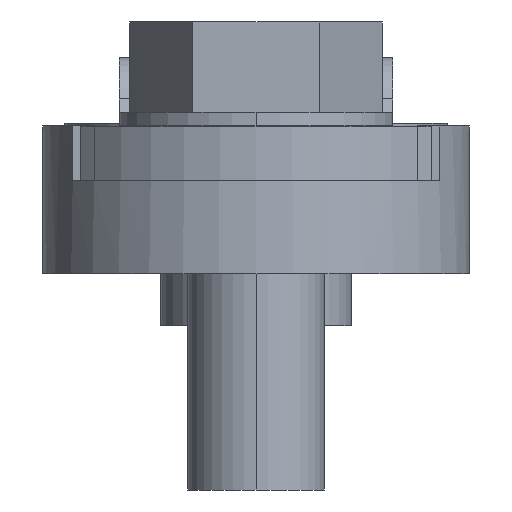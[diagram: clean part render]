
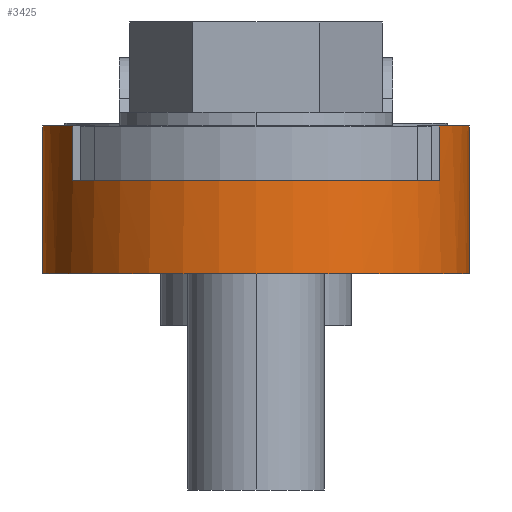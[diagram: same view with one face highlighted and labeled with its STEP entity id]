
A CAD part, front view. The second image highlights one B-rep face of the part: STEP entity #3425.
In plain terms, the highlighted cylindrical face has radius 7.8 mm (diameter 15.6 mm), a partial arc.
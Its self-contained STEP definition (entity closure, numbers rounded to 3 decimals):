
#52 = DIRECTION ( 'NONE',  ( 0., 0., -1. ) ) ;
#69 = CARTESIAN_POINT ( 'NONE',  ( 0., 0., 5.4 ) ) ;
#108 = VERTEX_POINT ( 'NONE', #354 ) ;
#354 = CARTESIAN_POINT ( 'NONE',  ( -7.8, 0., 5.4 ) ) ;
#363 = CYLINDRICAL_SURFACE ( 'NONE', #7017, 7.8 ) ;
#364 = DIRECTION ( 'NONE',  ( -1., 0., 0. ) ) ;
#891 = EDGE_CURVE ( 'NONE', #4449, #10571, #6610, .T. ) ;
#1611 = VECTOR ( 'NONE', #5868, 1000. ) ;
#1727 = CIRCLE ( 'NONE', #4421, 7.8 ) ;
#2285 = CARTESIAN_POINT ( 'NONE',  ( 0., 0., 3.4 ) ) ;
#2372 = ORIENTED_EDGE ( 'NONE', *, *, #9881, .T. ) ;
#2550 = ORIENTED_EDGE ( 'NONE', *, *, #7182, .F. ) ;
#2825 = DIRECTION ( 'NONE',  ( 0., 0., 1. ) ) ;
#2861 = AXIS2_PLACEMENT_3D ( 'NONE', #2285, #11218, #7761 ) ;
#2985 = EDGE_CURVE ( 'NONE', #108, #4449, #4959, .T. ) ;
#2988 = CIRCLE ( 'NONE', #5294, 7.8 ) ;
#3017 = CARTESIAN_POINT ( 'NONE',  ( -7.8, 0., 0. ) ) ;
#3070 = VERTEX_POINT ( 'NONE', #6157 ) ;
#3425 = ADVANCED_FACE ( 'NONE', ( #4884 ), #363, .T. ) ;
#3572 = VERTEX_POINT ( 'NONE', #11463 ) ;
#3741 = VERTEX_POINT ( 'NONE', #8225 ) ;
#3842 = CIRCLE ( 'NONE', #2861, 7.8 ) ;
#3871 = ORIENTED_EDGE ( 'NONE', *, *, #4164, .F. ) ;
#3936 = DIRECTION ( 'NONE',  ( 0., 0., 1. ) ) ;
#3993 = DIRECTION ( 'NONE',  ( 0., 0., -1. ) ) ;
#4122 = DIRECTION ( 'NONE',  ( 1., 0., 0. ) ) ;
#4164 = EDGE_CURVE ( 'NONE', #9325, #3741, #2988, .T. ) ;
#4252 = EDGE_CURVE ( 'NONE', #11114, #9325, #10818, .T. ) ;
#4344 = VECTOR ( 'NONE', #52, 1000. ) ;
#4421 = AXIS2_PLACEMENT_3D ( 'NONE', #7049, #7781, #364 ) ;
#4434 = EDGE_CURVE ( 'NONE', #3741, #10571, #11236, .T. ) ;
#4449 = VERTEX_POINT ( 'NONE', #3017 ) ;
#4545 = CARTESIAN_POINT ( 'NONE',  ( 6.696, -4., 3.4 ) ) ;
#4774 = CARTESIAN_POINT ( 'NONE',  ( -7.8, 0., 5.4 ) ) ;
#4884 = FACE_OUTER_BOUND ( 'NONE', #9309, .T. ) ;
#4959 = LINE ( 'NONE', #4774, #1611 ) ;
#5012 = CARTESIAN_POINT ( 'NONE',  ( 0., 0., 0. ) ) ;
#5175 = ORIENTED_EDGE ( 'NONE', *, *, #4434, .F. ) ;
#5294 = AXIS2_PLACEMENT_3D ( 'NONE', #69, #7429, #9154 ) ;
#5650 = AXIS2_PLACEMENT_3D ( 'NONE', #5012, #3936, #4122 ) ;
#5868 = DIRECTION ( 'NONE',  ( 0., 0., -1. ) ) ;
#6157 = CARTESIAN_POINT ( 'NONE',  ( -6.696, -4., 5.4 ) ) ;
#6209 = CARTESIAN_POINT ( 'NONE',  ( 7.8, 0., 0. ) ) ;
#6384 = DIRECTION ( 'NONE',  ( 0., 0., 1. ) ) ;
#6610 = CIRCLE ( 'NONE', #5650, 7.8 ) ;
#7017 = AXIS2_PLACEMENT_3D ( 'NONE', #8414, #3993, #11294 ) ;
#7049 = CARTESIAN_POINT ( 'NONE',  ( 0., 0., 5.4 ) ) ;
#7182 = EDGE_CURVE ( 'NONE', #3572, #11114, #3842, .T. ) ;
#7411 = CARTESIAN_POINT ( 'NONE',  ( -6.696, -4., 3.4 ) ) ;
#7429 = DIRECTION ( 'NONE',  ( 0., 0., 1. ) ) ;
#7761 = DIRECTION ( 'NONE',  ( 1., 0., 0. ) ) ;
#7781 = DIRECTION ( 'NONE',  ( 0., 0., -1. ) ) ;
#8119 = ORIENTED_EDGE ( 'NONE', *, *, #891, .T. ) ;
#8225 = CARTESIAN_POINT ( 'NONE',  ( 7.8, 0., 5.4 ) ) ;
#8355 = VECTOR ( 'NONE', #6384, 1000. ) ;
#8414 = CARTESIAN_POINT ( 'NONE',  ( 0., 0., 5.4 ) ) ;
#8967 = CARTESIAN_POINT ( 'NONE',  ( 6.696, -4., 3.4 ) ) ;
#9154 = DIRECTION ( 'NONE',  ( 1., 0., 0. ) ) ;
#9309 = EDGE_LOOP ( 'NONE', ( #3871, #9772, #2550, #9312, #2372, #11299, #8119, #5175 ) ) ;
#9312 = ORIENTED_EDGE ( 'NONE', *, *, #9848, .T. ) ;
#9325 = VERTEX_POINT ( 'NONE', #11126 ) ;
#9772 = ORIENTED_EDGE ( 'NONE', *, *, #4252, .F. ) ;
#9848 = EDGE_CURVE ( 'NONE', #3572, #3070, #10391, .T. ) ;
#9881 = EDGE_CURVE ( 'NONE', #3070, #108, #1727, .T. ) ;
#10391 = LINE ( 'NONE', #7411, #10584 ) ;
#10571 = VERTEX_POINT ( 'NONE', #6209 ) ;
#10584 = VECTOR ( 'NONE', #2825, 1000. ) ;
#10818 = LINE ( 'NONE', #8967, #8355 ) ;
#11114 = VERTEX_POINT ( 'NONE', #4545 ) ;
#11126 = CARTESIAN_POINT ( 'NONE',  ( 6.696, -4., 5.4 ) ) ;
#11170 = CARTESIAN_POINT ( 'NONE',  ( 7.8, 0., 5.4 ) ) ;
#11218 = DIRECTION ( 'NONE',  ( 0., 0., 1. ) ) ;
#11236 = LINE ( 'NONE', #11170, #4344 ) ;
#11294 = DIRECTION ( 'NONE',  ( -1., 0., 0. ) ) ;
#11299 = ORIENTED_EDGE ( 'NONE', *, *, #2985, .T. ) ;
#11463 = CARTESIAN_POINT ( 'NONE',  ( -6.696, -4., 3.4 ) ) ;
